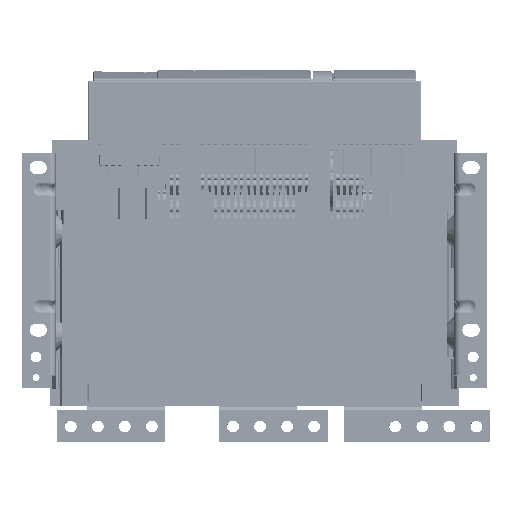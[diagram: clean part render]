
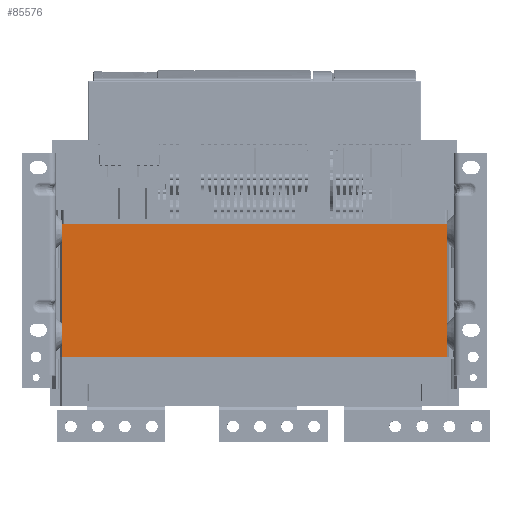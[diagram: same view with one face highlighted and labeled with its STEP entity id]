
A CAD part, top view. The second image highlights one B-rep face of the part: STEP entity #85576.
In plain terms, the highlighted planar face has unit normal (0, 0, 1).
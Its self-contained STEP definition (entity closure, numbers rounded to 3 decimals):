
#5873=FACE_OUTER_BOUND('',#10868,.T.);
#10868=EDGE_LOOP('',(#64187,#64188,#64189,#64190));
#20093=LINE('',#132526,#28733);
#20142=LINE('',#132646,#28782);
#20374=LINE('',#133148,#29014);
#20411=LINE('',#133233,#29051);
#28733=VECTOR('',#104672,356.);
#28782=VECTOR('',#104747,356.);
#29014=VECTOR('',#105201,123.);
#29051=VECTOR('',#105292,123.);
#37167=VERTEX_POINT('',#132523);
#37168=VERTEX_POINT('',#132525);
#37225=VERTEX_POINT('',#132643);
#37226=VERTEX_POINT('',#132645);
#46768=EDGE_CURVE('',#37167,#37168,#20093,.T.);
#46828=EDGE_CURVE('',#37226,#37225,#20142,.T.);
#47079=EDGE_CURVE('',#37226,#37167,#20374,.T.);
#47122=EDGE_CURVE('',#37225,#37168,#20411,.T.);
#64187=ORIENTED_EDGE('',*,*,#46828,.T.);
#64188=ORIENTED_EDGE('',*,*,#47122,.T.);
#64189=ORIENTED_EDGE('',*,*,#46768,.F.);
#64190=ORIENTED_EDGE('',*,*,#47079,.F.);
#81525=PLANE('',#91781);
#85576=ADVANCED_FACE('',(#5873),#81525,.T.);
#91781=AXIS2_PLACEMENT_3D('',#133302,#105367,#105368);
#104672=DIRECTION('',(1.,0.,0.));
#104747=DIRECTION('',(1.,0.,0.));
#105201=DIRECTION('',(0.,1.,0.));
#105292=DIRECTION('',(0.,1.,0.));
#105367=DIRECTION('center_axis',(0.,0.,1.));
#105368=DIRECTION('ref_axis',(1.,0.,0.));
#132523=CARTESIAN_POINT('',(-178.,123.,150.));
#132525=CARTESIAN_POINT('',(178.,123.,150.));
#132526=CARTESIAN_POINT('',(-178.,123.,150.));
#132643=CARTESIAN_POINT('',(178.,0.,150.));
#132645=CARTESIAN_POINT('',(-178.,0.,150.));
#132646=CARTESIAN_POINT('',(-178.,0.,150.));
#133148=CARTESIAN_POINT('',(-178.,0.,150.));
#133233=CARTESIAN_POINT('',(178.,0.,150.));
#133302=CARTESIAN_POINT('Origin',(-178.,0.,150.));
